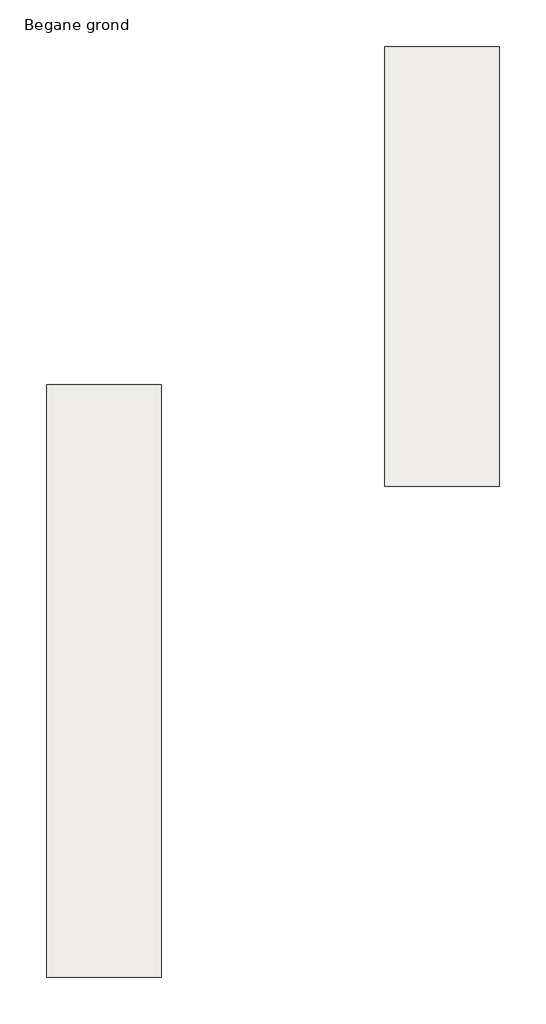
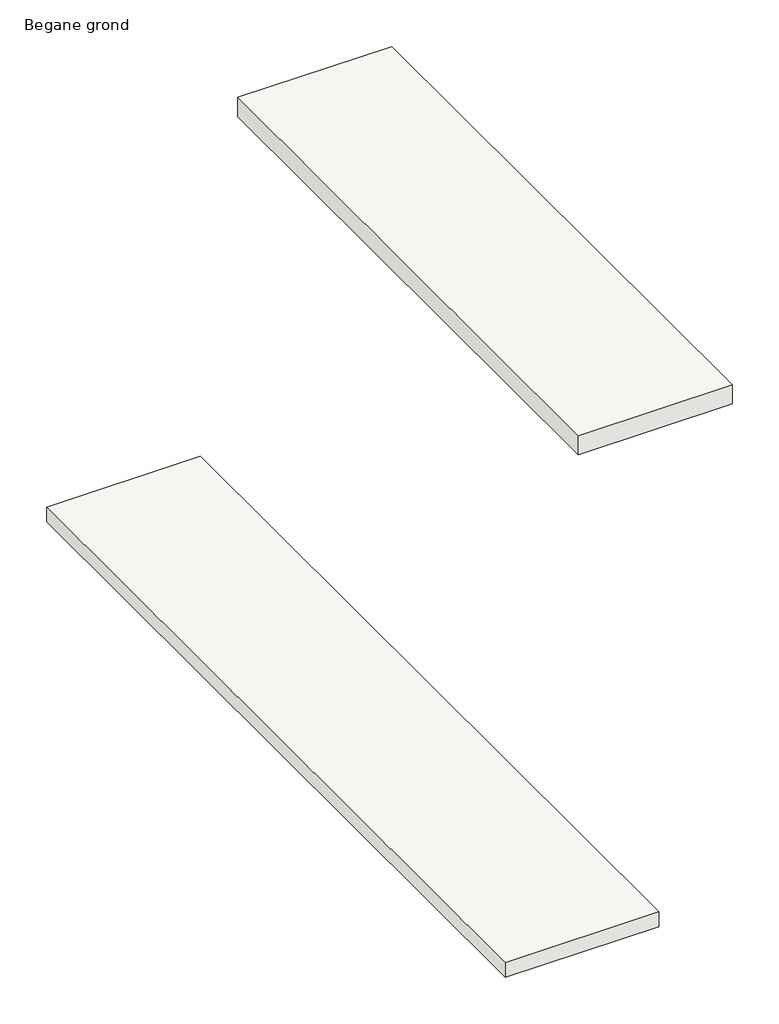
# One storey: 2 slabs.
"""IFC4 building model written with IfcOpenShell, lengths in millimetres."""

from ifc_helpers import new_model, si_unit, frame, origin, place, context, project, spatial, polyline, outline, extrude, element, save

model = new_model("IFC4")

# Units and contexts
model_context = context("Model", 3, world=origin())
ifc_project = project(units=[si_unit("LENGTHUNIT", "METRE", prefix="MILLI")], contexts=[model_context])

# Site, building, storey
site = spatial("IfcSite", under=ifc_project)
building = spatial("IfcBuilding", under=site)
storey = spatial("IfcBuildingStorey", under=building, Name="Begane grond", Elevation=0.0)

# Slabs
placement = place(None, origin())
element("IfcSlab", 1, ObjectType="NLRS_23_FL_Multifit 035_120x1200x6200mm", at=placement, inside=storey, context=model_context, shape_type="SweptSolid", body=[
    extrude(outline(polyline([(-2154.480527, 5161.2705237), (-2154.480527, -1038.7294763), (-3354.480527, -1038.7294763), (-3354.480527, 5161.2705237), (-2154.480527, 5161.2705237)])), frame((0.0, 0.0, -120.0), z_axis=(0.0, 0.0, 1.0), x_axis=(1.0, 0.0, 0.0)), (0.0, 0.0, 1.0), 120.0),
])
element("IfcSlab", 2, ObjectType="NLRS_23_FL_Multifit 035_160x1200x4600mm", at=placement, inside=storey, context=model_context, shape_type="SweptSolid", body=[
    extrude(outline(polyline([(1381.053379, 8696.8044297), (1381.053379, 4096.8044297), (181.053379, 4096.8044297), (181.053379, 8696.8044297), (1381.053379, 8696.8044297)])), frame((0.0, 0.0, -160.0), z_axis=(0.0, 0.0, 1.0), x_axis=(1.0, 0.0, 0.0)), (0.0, 0.0, 1.0), 160.0),
])

save(model, "model.ifc")
